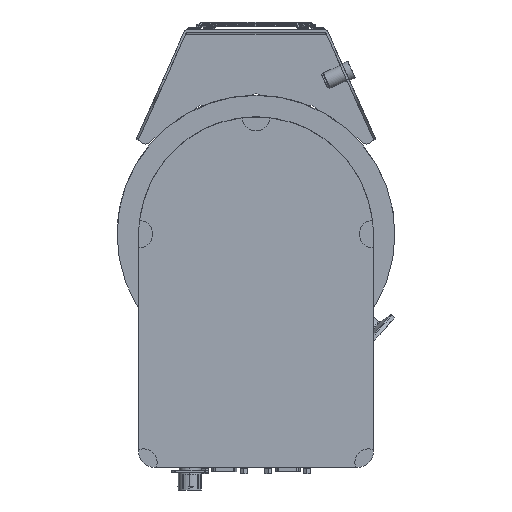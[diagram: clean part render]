
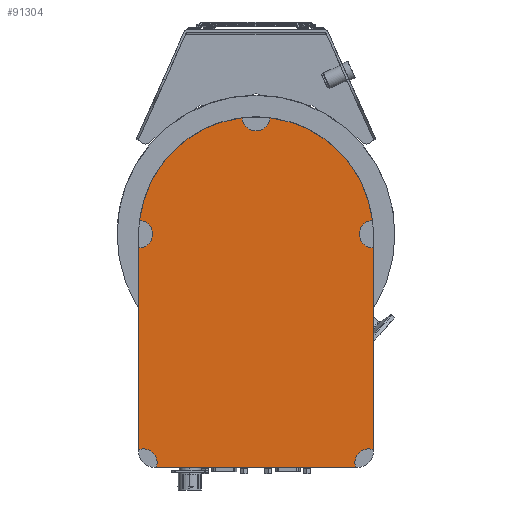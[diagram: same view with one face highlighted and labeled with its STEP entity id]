
A CAD part, front view. The second image highlights one B-rep face of the part: STEP entity #91304.
In plain terms, the highlighted planar face has unit normal (0, -1, 0).
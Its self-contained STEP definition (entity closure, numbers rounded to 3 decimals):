
#24659=CARTESIAN_POINT('',(0.,-79.65,0.));
#24660=DIRECTION('',(0.,-1.,0.));
#24661=DIRECTION('',(0.993,0.,0.118));
#24662=AXIS2_PLACEMENT_3D('',#24659,#24660,#24661);
#24677=CARTESIAN_POINT('',(0.,-79.65,0.));
#24678=DIRECTION('',(0.,-1.,0.));
#24679=DIRECTION('',(-0.118,0.,0.993));
#24680=AXIS2_PLACEMENT_3D('',#24677,#24678,#24679);
#24704=DIRECTION('',(0.,0.,1.));
#24705=VECTOR('',#24704,130.561);
#24706=CARTESIAN_POINT('',(76.,-79.65,-139.561));
#24707=LINE('',#24706,#24705);
#24736=DIRECTION('',(1.,0.,0.));
#24737=VECTOR('',#24736,129.122);
#24738=CARTESIAN_POINT('',(-64.561,-79.65,-151.));
#24739=LINE('',#24738,#24737);
#24958=DIRECTION('',(0.,0.,-1.));
#24959=VECTOR('',#24958,130.561);
#24960=CARTESIAN_POINT('',(-76.,-79.65,-9.));
#24961=LINE('',#24960,#24959);
#24978=CARTESIAN_POINT('',(0.,-79.65,76.));
#24979=DIRECTION('',(0.,-1.,0.));
#24980=DIRECTION('',(-0.998,0.,-0.059));
#24981=AXIS2_PLACEMENT_3D('',#24978,#24979,#24980);
#24983=CARTESIAN_POINT('',(76.,-79.65,0.));
#24984=DIRECTION('',(0.,-1.,0.));
#24985=DIRECTION('',(-0.059,0.,0.998));
#24986=AXIS2_PLACEMENT_3D('',#24983,#24984,#24985);
#24988=CARTESIAN_POINT('',(73.071,-79.65,-148.071));
#24989=DIRECTION('',(0.,-1.,0.));
#24990=DIRECTION('',(0.325,0.,0.946));
#24991=AXIS2_PLACEMENT_3D('',#24988,#24989,#24990);
#24993=CARTESIAN_POINT('',(-73.071,-79.65,-148.071));
#24994=DIRECTION('',(0.,-1.,0.));
#24995=DIRECTION('',(0.946,0.,-0.325));
#24996=AXIS2_PLACEMENT_3D('',#24993,#24994,#24995);
#24998=CARTESIAN_POINT('',(-76.,-79.65,0.));
#24999=DIRECTION('',(0.,-1.,0.));
#25000=DIRECTION('',(0.,0.,-1.));
#25001=AXIS2_PLACEMENT_3D('',#24998,#24999,#25000);
#30421=CARTESIAN_POINT('',(8.984,-79.65,75.467));
#30422=VERTEX_POINT('',#30421);
#30423=CARTESIAN_POINT('',(-8.984,-79.65,75.467));
#30424=VERTEX_POINT('',#30423);
#30425=CARTESIAN_POINT('',(75.467,-79.65,8.984));
#30426=VERTEX_POINT('',#30425);
#30427=CARTESIAN_POINT('',(-75.467,-79.65,8.984));
#30428=VERTEX_POINT('',#30427);
#30435=CARTESIAN_POINT('',(-76.,-79.65,-139.561));
#30436=VERTEX_POINT('',#30435);
#30437=CARTESIAN_POINT('',(-76.,-79.65,-9.));
#30438=VERTEX_POINT('',#30437);
#30447=CARTESIAN_POINT('',(64.561,-79.65,-151.));
#30448=VERTEX_POINT('',#30447);
#30449=CARTESIAN_POINT('',(-64.561,-79.65,-151.));
#30450=VERTEX_POINT('',#30449);
#30457=CARTESIAN_POINT('',(76.,-79.65,-9.));
#30458=VERTEX_POINT('',#30457);
#30459=CARTESIAN_POINT('',(76.,-79.65,-139.561));
#30460=VERTEX_POINT('',#30459);
#91286=CARTESIAN_POINT('',(0.,-79.65,0.));
#91287=DIRECTION('',(0.,1.,0.));
#91288=DIRECTION('',(0.,0.,-1.));
#91289=AXIS2_PLACEMENT_3D('',#91286,#91287,#91288);
#91290=PLANE('',#91289);
#91292=ORIENTED_EDGE('',*,*,#91291,.T.);
#91293=ORIENTED_EDGE('',*,*,#91022,.F.);
#91294=ORIENTED_EDGE('',*,*,#91052,.T.);
#91295=ORIENTED_EDGE('',*,*,#91065,.F.);
#91296=ORIENTED_EDGE('',*,*,#91083,.T.);
#91297=ORIENTED_EDGE('',*,*,#91098,.F.);
#91298=ORIENTED_EDGE('',*,*,#91248,.T.);
#91299=ORIENTED_EDGE('',*,*,#91263,.F.);
#91300=ORIENTED_EDGE('',*,*,#91279,.T.);
#91301=ORIENTED_EDGE('',*,*,#91029,.F.);
#91302=EDGE_LOOP('',(#91292,#91293,#91294,#91295,#91296,#91297,#91298,#91299,
#91300,#91301));
#91303=FACE_OUTER_BOUND('',#91302,.F.);
#91304=ADVANCED_FACE('',(#91303),#91290,.F.);
#24663=CIRCLE('',#24662,76.);
#24681=CIRCLE('',#24680,76.);
#24982=CIRCLE('',#24981,9.);
#24987=CIRCLE('',#24986,9.);
#24992=CIRCLE('',#24991,9.);
#24997=CIRCLE('',#24996,9.);
#25002=CIRCLE('',#25001,9.);
#91022=EDGE_CURVE('',#30426,#30422,#24663,.T.);
#91029=EDGE_CURVE('',#30424,#30428,#24681,.T.);
#91052=EDGE_CURVE('',#30426,#30458,#24987,.T.);
#91065=EDGE_CURVE('',#30460,#30458,#24707,.T.);
#91083=EDGE_CURVE('',#30460,#30448,#24992,.T.);
#91098=EDGE_CURVE('',#30450,#30448,#24739,.T.);
#91248=EDGE_CURVE('',#30450,#30436,#24997,.T.);
#91263=EDGE_CURVE('',#30438,#30436,#24961,.T.);
#91279=EDGE_CURVE('',#30438,#30428,#25002,.T.);
#91291=EDGE_CURVE('',#30424,#30422,#24982,.T.);
